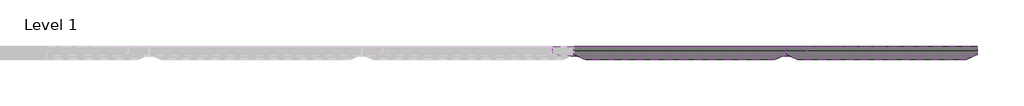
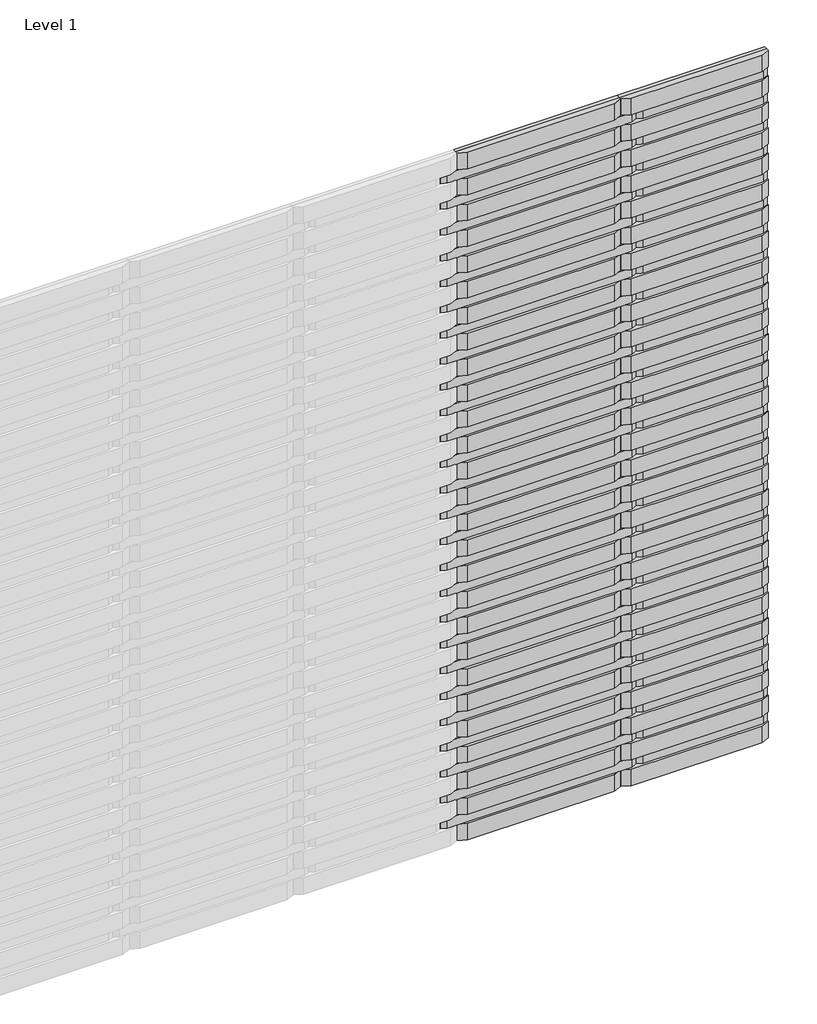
# One storey, part 3 of 3: 106 proxies.
"""IFC4 building model written with IfcOpenShell, lengths in millimetres."""

from ifc_helpers import new_model, si_unit, origin, place, context, project, spatial, transform, mapped, element, save
from components import specialty_equipment_40f1bc00, specialty_equipment_a95d78fa, specialty_equipment_5a5a9d1b, specialty_equipment_b25e9ab8

model = new_model("IFC4")

# Units and contexts
model_context = context("Model", 3, world=origin())
ifc_project = project(units=[si_unit("LENGTHUNIT", "METRE", prefix="MILLI")], contexts=[model_context])

# Site, building, storey
site = spatial("IfcSite", under=ifc_project)
building = spatial("IfcBuilding", under=site)
storey = spatial("IfcBuildingStorey", under=building, Name="Level 1", Elevation=0.0)

# Proxies
placement = place(None, origin())
specialty_equipment_shape = specialty_equipment_40f1bc00(model_context)
element("IfcBuildingElementProxy", 1, Name="Spinneybeck_ARO Plank 8 : A - 2’-9” x 3 1/2” x 1 1/4”", ObjectType="Spinneybeck_ARO Plank 8 : A - 2’-9” x 3 1/2” x 1 1/4”", at=placement, inside=storey, context=model_context, shape_type="MappedRepresentation", body=[
    mapped(specialty_equipment_shape, transform((3652.779612, 2593.3070483, 3755.55), x_axis=(1.0, 0.0, 0.0), y_axis=(0.0, 0.0, 1.0), z_axis=(0.0, -1.0, 0.0))),
])
element("IfcBuildingElementProxy", 2, Name="Spinneybeck_ARO Plank 8 : A - 2’-9” x 3 1/2” x 1 1/4”", ObjectType="Spinneybeck_ARO Plank 8 : A - 2’-9” x 3 1/2” x 1 1/4”", at=placement, inside=storey, context=model_context, shape_type="MappedRepresentation", body=[
    mapped(specialty_equipment_shape, transform((3652.779612, 2593.3070483, 3615.85), x_axis=(1.0, 0.0, 0.0), y_axis=(0.0, 0.0, 1.0), z_axis=(0.0, -1.0, 0.0))),
])
element("IfcBuildingElementProxy", 3, Name="Spinneybeck_ARO Plank 8 : A - 2’-9” x 3 1/2” x 1 1/4”", ObjectType="Spinneybeck_ARO Plank 8 : A - 2’-9” x 3 1/2” x 1 1/4”", at=placement, inside=storey, context=model_context, shape_type="MappedRepresentation", body=[
    mapped(specialty_equipment_shape, transform((3652.779612, 2593.3070483, 3476.15), x_axis=(1.0, 0.0, 0.0), y_axis=(0.0, 0.0, 1.0), z_axis=(0.0, -1.0, 0.0))),
])
element("IfcBuildingElementProxy", 4, Name="Spinneybeck_ARO Plank 8 : A - 2’-9” x 3 1/2” x 1 1/4”", ObjectType="Spinneybeck_ARO Plank 8 : A - 2’-9” x 3 1/2” x 1 1/4”", at=placement, inside=storey, context=model_context, shape_type="MappedRepresentation", body=[
    mapped(specialty_equipment_shape, transform((3652.779612, 2593.3070483, 3336.45), x_axis=(1.0, 0.0, 0.0), y_axis=(0.0, 0.0, 1.0), z_axis=(0.0, -1.0, 0.0))),
])
element("IfcBuildingElementProxy", 5, Name="Spinneybeck_ARO Plank 8 : A - 2’-9” x 3 1/2” x 1 1/4”", ObjectType="Spinneybeck_ARO Plank 8 : A - 2’-9” x 3 1/2” x 1 1/4”", at=placement, inside=storey, context=model_context, shape_type="MappedRepresentation", body=[
    mapped(specialty_equipment_shape, transform((3652.779612, 2593.3070483, 3196.75), x_axis=(1.0, 0.0, 0.0), y_axis=(0.0, 0.0, 1.0), z_axis=(0.0, -1.0, 0.0))),
])
element("IfcBuildingElementProxy", 6, Name="Spinneybeck_ARO Plank 8 : A - 2’-9” x 3 1/2” x 1 1/4”", ObjectType="Spinneybeck_ARO Plank 8 : A - 2’-9” x 3 1/2” x 1 1/4”", at=placement, inside=storey, context=model_context, shape_type="MappedRepresentation", body=[
    mapped(specialty_equipment_shape, transform((3652.779612, 2593.3070483, 3057.05), x_axis=(1.0, 0.0, 0.0), y_axis=(0.0, 0.0, 1.0), z_axis=(0.0, -1.0, 0.0))),
])
element("IfcBuildingElementProxy", 7, Name="Spinneybeck_ARO Plank 8 : A - 2’-9” x 3 1/2” x 1 1/4”", ObjectType="Spinneybeck_ARO Plank 8 : A - 2’-9” x 3 1/2” x 1 1/4”", at=placement, inside=storey, context=model_context, shape_type="MappedRepresentation", body=[
    mapped(specialty_equipment_shape, transform((3652.779612, 2593.3070483, 2917.35), x_axis=(1.0, 0.0, 0.0), y_axis=(0.0, 0.0, 1.0), z_axis=(0.0, -1.0, 0.0))),
])
element("IfcBuildingElementProxy", 8, Name="Spinneybeck_ARO Plank 8 : A - 2’-9” x 3 1/2” x 1 1/4”", ObjectType="Spinneybeck_ARO Plank 8 : A - 2’-9” x 3 1/2” x 1 1/4”", at=placement, inside=storey, context=model_context, shape_type="MappedRepresentation", body=[
    mapped(specialty_equipment_shape, transform((3652.779612, 2593.3070483, 2777.65), x_axis=(1.0, 0.0, 0.0), y_axis=(0.0, 0.0, 1.0), z_axis=(0.0, -1.0, 0.0))),
])
element("IfcBuildingElementProxy", 9, Name="Spinneybeck_ARO Plank 8 : A - 2’-9” x 3 1/2” x 1 1/4”", ObjectType="Spinneybeck_ARO Plank 8 : A - 2’-9” x 3 1/2” x 1 1/4”", at=placement, inside=storey, context=model_context, shape_type="MappedRepresentation", body=[
    mapped(specialty_equipment_shape, transform((3652.779612, 2593.3070483, 2637.95), x_axis=(1.0, 0.0, 0.0), y_axis=(0.0, 0.0, 1.0), z_axis=(0.0, -1.0, 0.0))),
])
element("IfcBuildingElementProxy", 10, Name="Spinneybeck_ARO Plank 8 : A - 2’-9” x 3 1/2” x 1 1/4”", ObjectType="Spinneybeck_ARO Plank 8 : A - 2’-9” x 3 1/2” x 1 1/4”", at=placement, inside=storey, context=model_context, shape_type="MappedRepresentation", body=[
    mapped(specialty_equipment_shape, transform((3652.779612, 2593.3070483, 2498.25), x_axis=(1.0, 0.0, 0.0), y_axis=(0.0, 0.0, 1.0), z_axis=(0.0, -1.0, 0.0))),
])
element("IfcBuildingElementProxy", 11, Name="Spinneybeck_ARO Plank 8 : A - 2’-9” x 3 1/2” x 1 1/4”", ObjectType="Spinneybeck_ARO Plank 8 : A - 2’-9” x 3 1/2” x 1 1/4”", at=placement, inside=storey, context=model_context, shape_type="MappedRepresentation", body=[
    mapped(specialty_equipment_shape, transform((3652.779612, 2593.3070483, 2358.55), x_axis=(1.0, 0.0, 0.0), y_axis=(0.0, 0.0, 1.0), z_axis=(0.0, -1.0, 0.0))),
])
element("IfcBuildingElementProxy", 12, Name="Spinneybeck_ARO Plank 8 : A - 2’-9” x 3 1/2” x 1 1/4”", ObjectType="Spinneybeck_ARO Plank 8 : A - 2’-9” x 3 1/2” x 1 1/4”", at=placement, inside=storey, context=model_context, shape_type="MappedRepresentation", body=[
    mapped(specialty_equipment_shape, transform((3652.779612, 2593.3070483, 2218.85), x_axis=(1.0, 0.0, 0.0), y_axis=(0.0, 0.0, 1.0), z_axis=(0.0, -1.0, 0.0))),
])
element("IfcBuildingElementProxy", 13, Name="Spinneybeck_ARO Plank 8 : A - 2’-9” x 3 1/2” x 1 1/4”", ObjectType="Spinneybeck_ARO Plank 8 : A - 2’-9” x 3 1/2” x 1 1/4”", at=placement, inside=storey, context=model_context, shape_type="MappedRepresentation", body=[
    mapped(specialty_equipment_shape, transform((3652.779612, 2593.3070483, 2079.15), x_axis=(1.0, 0.0, 0.0), y_axis=(0.0, 0.0, 1.0), z_axis=(0.0, -1.0, 0.0))),
])
element("IfcBuildingElementProxy", 14, Name="Spinneybeck_ARO Plank 8 : A - 2’-9” x 3 1/2” x 1 1/4”", ObjectType="Spinneybeck_ARO Plank 8 : A - 2’-9” x 3 1/2” x 1 1/4”", at=placement, inside=storey, context=model_context, shape_type="MappedRepresentation", body=[
    mapped(specialty_equipment_shape, transform((3652.779612, 2593.3070483, 1939.45), x_axis=(1.0, 0.0, 0.0), y_axis=(0.0, 0.0, 1.0), z_axis=(0.0, -1.0, 0.0))),
])
element("IfcBuildingElementProxy", 15, Name="Spinneybeck_ARO Plank 8 : A - 2’-9” x 3 1/2” x 1 1/4”", ObjectType="Spinneybeck_ARO Plank 8 : A - 2’-9” x 3 1/2” x 1 1/4”", at=placement, inside=storey, context=model_context, shape_type="MappedRepresentation", body=[
    mapped(specialty_equipment_shape, transform((3652.779612, 2593.3070483, 1799.75), x_axis=(1.0, 0.0, 0.0), y_axis=(0.0, 0.0, 1.0), z_axis=(0.0, -1.0, 0.0))),
])
element("IfcBuildingElementProxy", 16, Name="Spinneybeck_ARO Plank 8 : A - 2’-9” x 3 1/2” x 1 1/4”", ObjectType="Spinneybeck_ARO Plank 8 : A - 2’-9” x 3 1/2” x 1 1/4”", at=placement, inside=storey, context=model_context, shape_type="MappedRepresentation", body=[
    mapped(specialty_equipment_shape, transform((3652.779612, 2593.3070483, 1660.05), x_axis=(1.0, 0.0, 0.0), y_axis=(0.0, 0.0, 1.0), z_axis=(0.0, -1.0, 0.0))),
])
element("IfcBuildingElementProxy", 17, Name="Spinneybeck_ARO Plank 8 : A - 2’-9” x 3 1/2” x 1 1/4”", ObjectType="Spinneybeck_ARO Plank 8 : A - 2’-9” x 3 1/2” x 1 1/4”", at=placement, inside=storey, context=model_context, shape_type="MappedRepresentation", body=[
    mapped(specialty_equipment_shape, transform((3652.779612, 2593.3070483, 1520.35), x_axis=(1.0, 0.0, 0.0), y_axis=(0.0, 0.0, 1.0), z_axis=(0.0, -1.0, 0.0))),
])
element("IfcBuildingElementProxy", 18, Name="Spinneybeck_ARO Plank 8 : A - 2’-9” x 3 1/2” x 1 1/4”", ObjectType="Spinneybeck_ARO Plank 8 : A - 2’-9” x 3 1/2” x 1 1/4”", at=placement, inside=storey, context=model_context, shape_type="MappedRepresentation", body=[
    mapped(specialty_equipment_shape, transform((3652.779612, 2593.3070483, 1380.65), x_axis=(1.0, 0.0, 0.0), y_axis=(0.0, 0.0, 1.0), z_axis=(0.0, -1.0, 0.0))),
])
element("IfcBuildingElementProxy", 19, Name="Spinneybeck_ARO Plank 8 : A - 2’-9” x 3 1/2” x 1 1/4”", ObjectType="Spinneybeck_ARO Plank 8 : A - 2’-9” x 3 1/2” x 1 1/4”", at=placement, inside=storey, context=model_context, shape_type="MappedRepresentation", body=[
    mapped(specialty_equipment_shape, transform((3652.779612, 2593.3070483, 1240.95), x_axis=(1.0, 0.0, 0.0), y_axis=(0.0, 0.0, 1.0), z_axis=(0.0, -1.0, 0.0))),
])
element("IfcBuildingElementProxy", 20, Name="Spinneybeck_ARO Plank 8 : A - 2’-9” x 3 1/2” x 1 1/4”", ObjectType="Spinneybeck_ARO Plank 8 : A - 2’-9” x 3 1/2” x 1 1/4”", at=placement, inside=storey, context=model_context, shape_type="MappedRepresentation", body=[
    mapped(specialty_equipment_shape, transform((3652.779612, 2593.3070483, 1101.25), x_axis=(1.0, 0.0, 0.0), y_axis=(0.0, 0.0, 1.0), z_axis=(0.0, -1.0, 0.0))),
])
element("IfcBuildingElementProxy", 21, Name="Spinneybeck_ARO Plank 8 : A - 2’-9” x 3 1/2” x 1 1/4”", ObjectType="Spinneybeck_ARO Plank 8 : A - 2’-9” x 3 1/2” x 1 1/4”", at=placement, inside=storey, context=model_context, shape_type="MappedRepresentation", body=[
    mapped(specialty_equipment_shape, transform((3652.779612, 2593.3070483, 961.55), x_axis=(1.0, 0.0, 0.0), y_axis=(0.0, 0.0, 1.0), z_axis=(0.0, -1.0, 0.0))),
])
element("IfcBuildingElementProxy", 22, Name="Spinneybeck_ARO Plank 8 : A - 2’-9” x 3 1/2” x 1 1/4”", ObjectType="Spinneybeck_ARO Plank 8 : A - 2’-9” x 3 1/2” x 1 1/4”", at=placement, inside=storey, context=model_context, shape_type="MappedRepresentation", body=[
    mapped(specialty_equipment_shape, transform((3652.779612, 2593.3070483, 821.85), x_axis=(1.0, 0.0, 0.0), y_axis=(0.0, 0.0, 1.0), z_axis=(0.0, -1.0, 0.0))),
])
element("IfcBuildingElementProxy", 23, Name="Spinneybeck_ARO Plank 8 : A - 2’-9” x 3 1/2” x 1 1/4”", ObjectType="Spinneybeck_ARO Plank 8 : A - 2’-9” x 3 1/2” x 1 1/4”", at=placement, inside=storey, context=model_context, shape_type="MappedRepresentation", body=[
    mapped(specialty_equipment_shape, transform((3652.779612, 2593.3070483, 682.15), x_axis=(1.0, 0.0, 0.0), y_axis=(0.0, 0.0, 1.0), z_axis=(0.0, -1.0, 0.0))),
])
element("IfcBuildingElementProxy", 24, Name="Spinneybeck_ARO Plank 8 : A - 2’-9” x 3 1/2” x 1 1/4”", ObjectType="Spinneybeck_ARO Plank 8 : A - 2’-9” x 3 1/2” x 1 1/4”", at=placement, inside=storey, context=model_context, shape_type="MappedRepresentation", body=[
    mapped(specialty_equipment_shape, transform((3652.779612, 2593.3070483, 542.45), x_axis=(1.0, 0.0, 0.0), y_axis=(0.0, 0.0, 1.0), z_axis=(0.0, -1.0, 0.0))),
])
element("IfcBuildingElementProxy", 25, Name="Spinneybeck_ARO Plank 8 : A - 2’-9” x 3 1/2” x 1 1/4”", ObjectType="Spinneybeck_ARO Plank 8 : A - 2’-9” x 3 1/2” x 1 1/4”", at=placement, inside=storey, context=model_context, shape_type="MappedRepresentation", body=[
    mapped(specialty_equipment_shape, transform((3652.779612, 2593.3070483, 402.75), x_axis=(1.0, 0.0, 0.0), y_axis=(0.0, 0.0, 1.0), z_axis=(0.0, -1.0, 0.0))),
])
element("IfcBuildingElementProxy", 26, Name="Spinneybeck_ARO Plank 8 : A - 2’-9” x 3 1/2” x 1 1/4”", ObjectType="Spinneybeck_ARO Plank 8 : A - 2’-9” x 3 1/2” x 1 1/4”", at=placement, inside=storey, context=model_context, shape_type="MappedRepresentation", body=[
    mapped(specialty_equipment_shape, transform((3652.779612, 2593.3070483, 263.05), x_axis=(1.0, 0.0, 0.0), y_axis=(0.0, 0.0, 1.0), z_axis=(0.0, -1.0, 0.0))),
])
element("IfcBuildingElementProxy", 27, Name="Spinneybeck_ARO Plank 8 : A - 2’-9” x 3 1/2” x 1 1/4”", ObjectType="Spinneybeck_ARO Plank 8 : A - 2’-9” x 3 1/2” x 1 1/4”", at=placement, inside=storey, context=model_context, shape_type="MappedRepresentation", body=[
    mapped(specialty_equipment_shape, transform((3652.779612, 2593.3070483, 123.35), x_axis=(1.0, 0.0, 0.0), y_axis=(0.0, 0.0, 1.0), z_axis=(0.0, -1.0, 0.0))),
])
specialty_equipment_2_shape = specialty_equipment_a95d78fa(model_context)
element("IfcBuildingElementProxy", 28, Name="Spinneybeck_ARO Plank 8 : C - 3’-3 1/2” x 2” x 3/4”", ObjectType="Spinneybeck_ARO Plank 8 : C - 3’-3 1/2” x 2” x 3/4”", at=placement, inside=storey, context=model_context, shape_type="MappedRepresentation", body=[
    mapped(specialty_equipment_2_shape, transform((3652.779612, 2593.3070483, 3685.7), x_axis=(1.0, 0.0, 0.0), y_axis=(0.0, 0.0, 1.0), z_axis=(0.0, -1.0, 0.0))),
])
element("IfcBuildingElementProxy", 29, Name="Spinneybeck_ARO Plank 8 : C - 3’-3 1/2” x 2” x 3/4”", ObjectType="Spinneybeck_ARO Plank 8 : C - 3’-3 1/2” x 2” x 3/4”", at=placement, inside=storey, context=model_context, shape_type="MappedRepresentation", body=[
    mapped(specialty_equipment_2_shape, transform((3652.779612, 2593.3070483, 3546.0), x_axis=(1.0, 0.0, 0.0), y_axis=(0.0, 0.0, 1.0), z_axis=(0.0, -1.0, 0.0))),
])
element("IfcBuildingElementProxy", 30, Name="Spinneybeck_ARO Plank 8 : C - 3’-3 1/2” x 2” x 3/4”", ObjectType="Spinneybeck_ARO Plank 8 : C - 3’-3 1/2” x 2” x 3/4”", at=placement, inside=storey, context=model_context, shape_type="MappedRepresentation", body=[
    mapped(specialty_equipment_2_shape, transform((3652.779612, 2593.3070483, 3406.3), x_axis=(1.0, 0.0, 0.0), y_axis=(0.0, 0.0, 1.0), z_axis=(0.0, -1.0, 0.0))),
])
element("IfcBuildingElementProxy", 31, Name="Spinneybeck_ARO Plank 8 : C - 3’-3 1/2” x 2” x 3/4”", ObjectType="Spinneybeck_ARO Plank 8 : C - 3’-3 1/2” x 2” x 3/4”", at=placement, inside=storey, context=model_context, shape_type="MappedRepresentation", body=[
    mapped(specialty_equipment_2_shape, transform((3652.779612, 2593.3070483, 3266.6), x_axis=(1.0, 0.0, 0.0), y_axis=(0.0, 0.0, 1.0), z_axis=(0.0, -1.0, 0.0))),
])
element("IfcBuildingElementProxy", 32, Name="Spinneybeck_ARO Plank 8 : C - 3’-3 1/2” x 2” x 3/4”", ObjectType="Spinneybeck_ARO Plank 8 : C - 3’-3 1/2” x 2” x 3/4”", at=placement, inside=storey, context=model_context, shape_type="MappedRepresentation", body=[
    mapped(specialty_equipment_2_shape, transform((3652.779612, 2593.3070483, 3126.9), x_axis=(1.0, 0.0, 0.0), y_axis=(0.0, 0.0, 1.0), z_axis=(0.0, -1.0, 0.0))),
])
element("IfcBuildingElementProxy", 33, Name="Spinneybeck_ARO Plank 8 : C - 3’-3 1/2” x 2” x 3/4”", ObjectType="Spinneybeck_ARO Plank 8 : C - 3’-3 1/2” x 2” x 3/4”", at=placement, inside=storey, context=model_context, shape_type="MappedRepresentation", body=[
    mapped(specialty_equipment_2_shape, transform((3652.779612, 2593.3070483, 2987.2), x_axis=(1.0, 0.0, 0.0), y_axis=(0.0, 0.0, 1.0), z_axis=(0.0, -1.0, 0.0))),
])
element("IfcBuildingElementProxy", 34, Name="Spinneybeck_ARO Plank 8 : C - 3’-3 1/2” x 2” x 3/4”", ObjectType="Spinneybeck_ARO Plank 8 : C - 3’-3 1/2” x 2” x 3/4”", at=placement, inside=storey, context=model_context, shape_type="MappedRepresentation", body=[
    mapped(specialty_equipment_2_shape, transform((3652.779612, 2593.3070483, 2847.5), x_axis=(1.0, 0.0, 0.0), y_axis=(0.0, 0.0, 1.0), z_axis=(0.0, -1.0, 0.0))),
])
element("IfcBuildingElementProxy", 35, Name="Spinneybeck_ARO Plank 8 : C - 3’-3 1/2” x 2” x 3/4”", ObjectType="Spinneybeck_ARO Plank 8 : C - 3’-3 1/2” x 2” x 3/4”", at=placement, inside=storey, context=model_context, shape_type="MappedRepresentation", body=[
    mapped(specialty_equipment_2_shape, transform((3652.779612, 2593.3070483, 2707.8), x_axis=(1.0, 0.0, 0.0), y_axis=(0.0, 0.0, 1.0), z_axis=(0.0, -1.0, 0.0))),
])
element("IfcBuildingElementProxy", 36, Name="Spinneybeck_ARO Plank 8 : C - 3’-3 1/2” x 2” x 3/4”", ObjectType="Spinneybeck_ARO Plank 8 : C - 3’-3 1/2” x 2” x 3/4”", at=placement, inside=storey, context=model_context, shape_type="MappedRepresentation", body=[
    mapped(specialty_equipment_2_shape, transform((3652.779612, 2593.3070483, 2568.1), x_axis=(1.0, 0.0, 0.0), y_axis=(0.0, 0.0, 1.0), z_axis=(0.0, -1.0, 0.0))),
])
element("IfcBuildingElementProxy", 37, Name="Spinneybeck_ARO Plank 8 : C - 3’-3 1/2” x 2” x 3/4”", ObjectType="Spinneybeck_ARO Plank 8 : C - 3’-3 1/2” x 2” x 3/4”", at=placement, inside=storey, context=model_context, shape_type="MappedRepresentation", body=[
    mapped(specialty_equipment_2_shape, transform((3652.779612, 2593.3070483, 2428.4), x_axis=(1.0, 0.0, 0.0), y_axis=(0.0, 0.0, 1.0), z_axis=(0.0, -1.0, 0.0))),
])
element("IfcBuildingElementProxy", 38, Name="Spinneybeck_ARO Plank 8 : C - 3’-3 1/2” x 2” x 3/4”", ObjectType="Spinneybeck_ARO Plank 8 : C - 3’-3 1/2” x 2” x 3/4”", at=placement, inside=storey, context=model_context, shape_type="MappedRepresentation", body=[
    mapped(specialty_equipment_2_shape, transform((3652.779612, 2593.3070483, 2288.7), x_axis=(1.0, 0.0, 0.0), y_axis=(0.0, 0.0, 1.0), z_axis=(0.0, -1.0, 0.0))),
])
element("IfcBuildingElementProxy", 39, Name="Spinneybeck_ARO Plank 8 : C - 3’-3 1/2” x 2” x 3/4”", ObjectType="Spinneybeck_ARO Plank 8 : C - 3’-3 1/2” x 2” x 3/4”", at=placement, inside=storey, context=model_context, shape_type="MappedRepresentation", body=[
    mapped(specialty_equipment_2_shape, transform((3652.779612, 2593.3070483, 2149.0), x_axis=(1.0, 0.0, 0.0), y_axis=(0.0, 0.0, 1.0), z_axis=(0.0, -1.0, 0.0))),
])
element("IfcBuildingElementProxy", 40, Name="Spinneybeck_ARO Plank 8 : C - 3’-3 1/2” x 2” x 3/4”", ObjectType="Spinneybeck_ARO Plank 8 : C - 3’-3 1/2” x 2” x 3/4”", at=placement, inside=storey, context=model_context, shape_type="MappedRepresentation", body=[
    mapped(specialty_equipment_2_shape, transform((3652.779612, 2593.3070483, 2009.3), x_axis=(1.0, 0.0, 0.0), y_axis=(0.0, 0.0, 1.0), z_axis=(0.0, -1.0, 0.0))),
])
element("IfcBuildingElementProxy", 41, Name="Spinneybeck_ARO Plank 8 : C - 3’-3 1/2” x 2” x 3/4”", ObjectType="Spinneybeck_ARO Plank 8 : C - 3’-3 1/2” x 2” x 3/4”", at=placement, inside=storey, context=model_context, shape_type="MappedRepresentation", body=[
    mapped(specialty_equipment_2_shape, transform((3652.779612, 2593.3070483, 1869.6), x_axis=(1.0, 0.0, 0.0), y_axis=(0.0, 0.0, 1.0), z_axis=(0.0, -1.0, 0.0))),
])
element("IfcBuildingElementProxy", 42, Name="Spinneybeck_ARO Plank 8 : C - 3’-3 1/2” x 2” x 3/4”", ObjectType="Spinneybeck_ARO Plank 8 : C - 3’-3 1/2” x 2” x 3/4”", at=placement, inside=storey, context=model_context, shape_type="MappedRepresentation", body=[
    mapped(specialty_equipment_2_shape, transform((3652.779612, 2593.3070483, 1729.9), x_axis=(1.0, 0.0, 0.0), y_axis=(0.0, 0.0, 1.0), z_axis=(0.0, -1.0, 0.0))),
])
element("IfcBuildingElementProxy", 43, Name="Spinneybeck_ARO Plank 8 : C - 3’-3 1/2” x 2” x 3/4”", ObjectType="Spinneybeck_ARO Plank 8 : C - 3’-3 1/2” x 2” x 3/4”", at=placement, inside=storey, context=model_context, shape_type="MappedRepresentation", body=[
    mapped(specialty_equipment_2_shape, transform((3652.779612, 2593.3070483, 1590.2), x_axis=(1.0, 0.0, 0.0), y_axis=(0.0, 0.0, 1.0), z_axis=(0.0, -1.0, 0.0))),
])
element("IfcBuildingElementProxy", 44, Name="Spinneybeck_ARO Plank 8 : C - 3’-3 1/2” x 2” x 3/4”", ObjectType="Spinneybeck_ARO Plank 8 : C - 3’-3 1/2” x 2” x 3/4”", at=placement, inside=storey, context=model_context, shape_type="MappedRepresentation", body=[
    mapped(specialty_equipment_2_shape, transform((3652.779612, 2593.3070483, 1450.5), x_axis=(1.0, 0.0, 0.0), y_axis=(0.0, 0.0, 1.0), z_axis=(0.0, -1.0, 0.0))),
])
element("IfcBuildingElementProxy", 45, Name="Spinneybeck_ARO Plank 8 : C - 3’-3 1/2” x 2” x 3/4”", ObjectType="Spinneybeck_ARO Plank 8 : C - 3’-3 1/2” x 2” x 3/4”", at=placement, inside=storey, context=model_context, shape_type="MappedRepresentation", body=[
    mapped(specialty_equipment_2_shape, transform((3652.779612, 2593.3070483, 1310.8), x_axis=(1.0, 0.0, 0.0), y_axis=(0.0, 0.0, 1.0), z_axis=(0.0, -1.0, 0.0))),
])
element("IfcBuildingElementProxy", 46, Name="Spinneybeck_ARO Plank 8 : C - 3’-3 1/2” x 2” x 3/4”", ObjectType="Spinneybeck_ARO Plank 8 : C - 3’-3 1/2” x 2” x 3/4”", at=placement, inside=storey, context=model_context, shape_type="MappedRepresentation", body=[
    mapped(specialty_equipment_2_shape, transform((3652.779612, 2593.3070483, 1171.1), x_axis=(1.0, 0.0, 0.0), y_axis=(0.0, 0.0, 1.0), z_axis=(0.0, -1.0, 0.0))),
])
element("IfcBuildingElementProxy", 47, Name="Spinneybeck_ARO Plank 8 : C - 3’-3 1/2” x 2” x 3/4”", ObjectType="Spinneybeck_ARO Plank 8 : C - 3’-3 1/2” x 2” x 3/4”", at=placement, inside=storey, context=model_context, shape_type="MappedRepresentation", body=[
    mapped(specialty_equipment_2_shape, transform((3652.779612, 2593.3070483, 1031.4), x_axis=(1.0, 0.0, 0.0), y_axis=(0.0, 0.0, 1.0), z_axis=(0.0, -1.0, 0.0))),
])
element("IfcBuildingElementProxy", 48, Name="Spinneybeck_ARO Plank 8 : C - 3’-3 1/2” x 2” x 3/4”", ObjectType="Spinneybeck_ARO Plank 8 : C - 3’-3 1/2” x 2” x 3/4”", at=placement, inside=storey, context=model_context, shape_type="MappedRepresentation", body=[
    mapped(specialty_equipment_2_shape, transform((3652.779612, 2593.3070483, 891.7), x_axis=(1.0, 0.0, 0.0), y_axis=(0.0, 0.0, 1.0), z_axis=(0.0, -1.0, 0.0))),
])
element("IfcBuildingElementProxy", 49, Name="Spinneybeck_ARO Plank 8 : C - 3’-3 1/2” x 2” x 3/4”", ObjectType="Spinneybeck_ARO Plank 8 : C - 3’-3 1/2” x 2” x 3/4”", at=placement, inside=storey, context=model_context, shape_type="MappedRepresentation", body=[
    mapped(specialty_equipment_2_shape, transform((3652.779612, 2593.3070483, 752.0), x_axis=(1.0, 0.0, 0.0), y_axis=(0.0, 0.0, 1.0), z_axis=(0.0, -1.0, 0.0))),
])
element("IfcBuildingElementProxy", 50, Name="Spinneybeck_ARO Plank 8 : C - 3’-3 1/2” x 2” x 3/4”", ObjectType="Spinneybeck_ARO Plank 8 : C - 3’-3 1/2” x 2” x 3/4”", at=placement, inside=storey, context=model_context, shape_type="MappedRepresentation", body=[
    mapped(specialty_equipment_2_shape, transform((3652.779612, 2593.3070483, 612.3), x_axis=(1.0, 0.0, 0.0), y_axis=(0.0, 0.0, 1.0), z_axis=(0.0, -1.0, 0.0))),
])
element("IfcBuildingElementProxy", 51, Name="Spinneybeck_ARO Plank 8 : C - 3’-3 1/2” x 2” x 3/4”", ObjectType="Spinneybeck_ARO Plank 8 : C - 3’-3 1/2” x 2” x 3/4”", at=placement, inside=storey, context=model_context, shape_type="MappedRepresentation", body=[
    mapped(specialty_equipment_2_shape, transform((3652.779612, 2593.3070483, 472.6), x_axis=(1.0, 0.0, 0.0), y_axis=(0.0, 0.0, 1.0), z_axis=(0.0, -1.0, 0.0))),
])
element("IfcBuildingElementProxy", 52, Name="Spinneybeck_ARO Plank 8 : C - 3’-3 1/2” x 2” x 3/4”", ObjectType="Spinneybeck_ARO Plank 8 : C - 3’-3 1/2” x 2” x 3/4”", at=placement, inside=storey, context=model_context, shape_type="MappedRepresentation", body=[
    mapped(specialty_equipment_2_shape, transform((3652.779612, 2593.3070483, 332.9), x_axis=(1.0, 0.0, 0.0), y_axis=(0.0, 0.0, 1.0), z_axis=(0.0, -1.0, 0.0))),
])
element("IfcBuildingElementProxy", 53, Name="Spinneybeck_ARO Plank 8 : C - 3’-3 1/2” x 2” x 3/4”", ObjectType="Spinneybeck_ARO Plank 8 : C - 3’-3 1/2” x 2” x 3/4”", at=placement, inside=storey, context=model_context, shape_type="MappedRepresentation", body=[
    mapped(specialty_equipment_2_shape, transform((3652.779612, 2593.3070483, 193.2), x_axis=(1.0, 0.0, 0.0), y_axis=(0.0, 0.0, 1.0), z_axis=(0.0, -1.0, 0.0))),
])
specialty_equipment_3_shape = specialty_equipment_5a5a9d1b(model_context)
element("IfcBuildingElementProxy", 54, Name="Spinneybeck_ARO Plank 8 : D - 2’-2 1/2” x 2” x 3/4”", ObjectType="Spinneybeck_ARO Plank 8 : D - 2’-2 1/2” x 2” x 3/4”", at=placement, inside=storey, context=model_context, shape_type="MappedRepresentation", body=[
    mapped(specialty_equipment_3_shape, transform((4490.979612, 2593.3070483, 3685.7), x_axis=(1.0, 0.0, 0.0), y_axis=(0.0, 0.0, 1.0), z_axis=(0.0, -1.0, 0.0))),
])
element("IfcBuildingElementProxy", 55, Name="Spinneybeck_ARO Plank 8 : D - 2’-2 1/2” x 2” x 3/4”", ObjectType="Spinneybeck_ARO Plank 8 : D - 2’-2 1/2” x 2” x 3/4”", at=placement, inside=storey, context=model_context, shape_type="MappedRepresentation", body=[
    mapped(specialty_equipment_3_shape, transform((4490.979612, 2593.3070483, 3546.0), x_axis=(1.0, 0.0, 0.0), y_axis=(0.0, 0.0, 1.0), z_axis=(0.0, -1.0, 0.0))),
])
element("IfcBuildingElementProxy", 56, Name="Spinneybeck_ARO Plank 8 : D - 2’-2 1/2” x 2” x 3/4”", ObjectType="Spinneybeck_ARO Plank 8 : D - 2’-2 1/2” x 2” x 3/4”", at=placement, inside=storey, context=model_context, shape_type="MappedRepresentation", body=[
    mapped(specialty_equipment_3_shape, transform((4490.979612, 2593.3070483, 3406.3), x_axis=(1.0, 0.0, 0.0), y_axis=(0.0, 0.0, 1.0), z_axis=(0.0, -1.0, 0.0))),
])
element("IfcBuildingElementProxy", 57, Name="Spinneybeck_ARO Plank 8 : D - 2’-2 1/2” x 2” x 3/4”", ObjectType="Spinneybeck_ARO Plank 8 : D - 2’-2 1/2” x 2” x 3/4”", at=placement, inside=storey, context=model_context, shape_type="MappedRepresentation", body=[
    mapped(specialty_equipment_3_shape, transform((4490.979612, 2593.3070483, 3266.6), x_axis=(1.0, 0.0, 0.0), y_axis=(0.0, 0.0, 1.0), z_axis=(0.0, -1.0, 0.0))),
])
element("IfcBuildingElementProxy", 58, Name="Spinneybeck_ARO Plank 8 : D - 2’-2 1/2” x 2” x 3/4”", ObjectType="Spinneybeck_ARO Plank 8 : D - 2’-2 1/2” x 2” x 3/4”", at=placement, inside=storey, context=model_context, shape_type="MappedRepresentation", body=[
    mapped(specialty_equipment_3_shape, transform((4490.979612, 2593.3070483, 3126.9), x_axis=(1.0, 0.0, 0.0), y_axis=(0.0, 0.0, 1.0), z_axis=(0.0, -1.0, 0.0))),
])
element("IfcBuildingElementProxy", 59, Name="Spinneybeck_ARO Plank 8 : D - 2’-2 1/2” x 2” x 3/4”", ObjectType="Spinneybeck_ARO Plank 8 : D - 2’-2 1/2” x 2” x 3/4”", at=placement, inside=storey, context=model_context, shape_type="MappedRepresentation", body=[
    mapped(specialty_equipment_3_shape, transform((4490.979612, 2593.3070483, 2987.2), x_axis=(1.0, 0.0, 0.0), y_axis=(0.0, 0.0, 1.0), z_axis=(0.0, -1.0, 0.0))),
])
element("IfcBuildingElementProxy", 60, Name="Spinneybeck_ARO Plank 8 : D - 2’-2 1/2” x 2” x 3/4”", ObjectType="Spinneybeck_ARO Plank 8 : D - 2’-2 1/2” x 2” x 3/4”", at=placement, inside=storey, context=model_context, shape_type="MappedRepresentation", body=[
    mapped(specialty_equipment_3_shape, transform((4490.979612, 2593.3070483, 2847.5), x_axis=(1.0, 0.0, 0.0), y_axis=(0.0, 0.0, 1.0), z_axis=(0.0, -1.0, 0.0))),
])
element("IfcBuildingElementProxy", 61, Name="Spinneybeck_ARO Plank 8 : D - 2’-2 1/2” x 2” x 3/4”", ObjectType="Spinneybeck_ARO Plank 8 : D - 2’-2 1/2” x 2” x 3/4”", at=placement, inside=storey, context=model_context, shape_type="MappedRepresentation", body=[
    mapped(specialty_equipment_3_shape, transform((4490.979612, 2593.3070483, 2707.8), x_axis=(1.0, 0.0, 0.0), y_axis=(0.0, 0.0, 1.0), z_axis=(0.0, -1.0, 0.0))),
])
element("IfcBuildingElementProxy", 62, Name="Spinneybeck_ARO Plank 8 : D - 2’-2 1/2” x 2” x 3/4”", ObjectType="Spinneybeck_ARO Plank 8 : D - 2’-2 1/2” x 2” x 3/4”", at=placement, inside=storey, context=model_context, shape_type="MappedRepresentation", body=[
    mapped(specialty_equipment_3_shape, transform((4490.979612, 2593.3070483, 2568.1), x_axis=(1.0, 0.0, 0.0), y_axis=(0.0, 0.0, 1.0), z_axis=(0.0, -1.0, 0.0))),
])
element("IfcBuildingElementProxy", 63, Name="Spinneybeck_ARO Plank 8 : D - 2’-2 1/2” x 2” x 3/4”", ObjectType="Spinneybeck_ARO Plank 8 : D - 2’-2 1/2” x 2” x 3/4”", at=placement, inside=storey, context=model_context, shape_type="MappedRepresentation", body=[
    mapped(specialty_equipment_3_shape, transform((4490.979612, 2593.3070483, 2428.4), x_axis=(1.0, 0.0, 0.0), y_axis=(0.0, 0.0, 1.0), z_axis=(0.0, -1.0, 0.0))),
])
element("IfcBuildingElementProxy", 64, Name="Spinneybeck_ARO Plank 8 : D - 2’-2 1/2” x 2” x 3/4”", ObjectType="Spinneybeck_ARO Plank 8 : D - 2’-2 1/2” x 2” x 3/4”", at=placement, inside=storey, context=model_context, shape_type="MappedRepresentation", body=[
    mapped(specialty_equipment_3_shape, transform((4490.979612, 2593.3070483, 2288.7), x_axis=(1.0, 0.0, 0.0), y_axis=(0.0, 0.0, 1.0), z_axis=(0.0, -1.0, 0.0))),
])
element("IfcBuildingElementProxy", 65, Name="Spinneybeck_ARO Plank 8 : D - 2’-2 1/2” x 2” x 3/4”", ObjectType="Spinneybeck_ARO Plank 8 : D - 2’-2 1/2” x 2” x 3/4”", at=placement, inside=storey, context=model_context, shape_type="MappedRepresentation", body=[
    mapped(specialty_equipment_3_shape, transform((4490.979612, 2593.3070483, 2149.0), x_axis=(1.0, 0.0, 0.0), y_axis=(0.0, 0.0, 1.0), z_axis=(0.0, -1.0, 0.0))),
])
element("IfcBuildingElementProxy", 66, Name="Spinneybeck_ARO Plank 8 : D - 2’-2 1/2” x 2” x 3/4”", ObjectType="Spinneybeck_ARO Plank 8 : D - 2’-2 1/2” x 2” x 3/4”", at=placement, inside=storey, context=model_context, shape_type="MappedRepresentation", body=[
    mapped(specialty_equipment_3_shape, transform((4490.979612, 2593.3070483, 2009.3), x_axis=(1.0, 0.0, 0.0), y_axis=(0.0, 0.0, 1.0), z_axis=(0.0, -1.0, 0.0))),
])
element("IfcBuildingElementProxy", 67, Name="Spinneybeck_ARO Plank 8 : D - 2’-2 1/2” x 2” x 3/4”", ObjectType="Spinneybeck_ARO Plank 8 : D - 2’-2 1/2” x 2” x 3/4”", at=placement, inside=storey, context=model_context, shape_type="MappedRepresentation", body=[
    mapped(specialty_equipment_3_shape, transform((4490.979612, 2593.3070483, 1869.6), x_axis=(1.0, 0.0, 0.0), y_axis=(0.0, 0.0, 1.0), z_axis=(0.0, -1.0, 0.0))),
])
element("IfcBuildingElementProxy", 68, Name="Spinneybeck_ARO Plank 8 : D - 2’-2 1/2” x 2” x 3/4”", ObjectType="Spinneybeck_ARO Plank 8 : D - 2’-2 1/2” x 2” x 3/4”", at=placement, inside=storey, context=model_context, shape_type="MappedRepresentation", body=[
    mapped(specialty_equipment_3_shape, transform((4490.979612, 2593.3070483, 1729.9), x_axis=(1.0, 0.0, 0.0), y_axis=(0.0, 0.0, 1.0), z_axis=(0.0, -1.0, 0.0))),
])
element("IfcBuildingElementProxy", 69, Name="Spinneybeck_ARO Plank 8 : D - 2’-2 1/2” x 2” x 3/4”", ObjectType="Spinneybeck_ARO Plank 8 : D - 2’-2 1/2” x 2” x 3/4”", at=placement, inside=storey, context=model_context, shape_type="MappedRepresentation", body=[
    mapped(specialty_equipment_3_shape, transform((4490.979612, 2593.3070483, 1590.2), x_axis=(1.0, 0.0, 0.0), y_axis=(0.0, 0.0, 1.0), z_axis=(0.0, -1.0, 0.0))),
])
element("IfcBuildingElementProxy", 70, Name="Spinneybeck_ARO Plank 8 : D - 2’-2 1/2” x 2” x 3/4”", ObjectType="Spinneybeck_ARO Plank 8 : D - 2’-2 1/2” x 2” x 3/4”", at=placement, inside=storey, context=model_context, shape_type="MappedRepresentation", body=[
    mapped(specialty_equipment_3_shape, transform((4490.979612, 2593.3070483, 1450.5), x_axis=(1.0, 0.0, 0.0), y_axis=(0.0, 0.0, 1.0), z_axis=(0.0, -1.0, 0.0))),
])
element("IfcBuildingElementProxy", 71, Name="Spinneybeck_ARO Plank 8 : D - 2’-2 1/2” x 2” x 3/4”", ObjectType="Spinneybeck_ARO Plank 8 : D - 2’-2 1/2” x 2” x 3/4”", at=placement, inside=storey, context=model_context, shape_type="MappedRepresentation", body=[
    mapped(specialty_equipment_3_shape, transform((4490.979612, 2593.3070483, 1310.8), x_axis=(1.0, 0.0, 0.0), y_axis=(0.0, 0.0, 1.0), z_axis=(0.0, -1.0, 0.0))),
])
element("IfcBuildingElementProxy", 72, Name="Spinneybeck_ARO Plank 8 : D - 2’-2 1/2” x 2” x 3/4”", ObjectType="Spinneybeck_ARO Plank 8 : D - 2’-2 1/2” x 2” x 3/4”", at=placement, inside=storey, context=model_context, shape_type="MappedRepresentation", body=[
    mapped(specialty_equipment_3_shape, transform((4490.979612, 2593.3070483, 1171.1), x_axis=(1.0, 0.0, 0.0), y_axis=(0.0, 0.0, 1.0), z_axis=(0.0, -1.0, 0.0))),
])
element("IfcBuildingElementProxy", 73, Name="Spinneybeck_ARO Plank 8 : D - 2’-2 1/2” x 2” x 3/4”", ObjectType="Spinneybeck_ARO Plank 8 : D - 2’-2 1/2” x 2” x 3/4”", at=placement, inside=storey, context=model_context, shape_type="MappedRepresentation", body=[
    mapped(specialty_equipment_3_shape, transform((4490.979612, 2593.3070483, 1031.4), x_axis=(1.0, 0.0, 0.0), y_axis=(0.0, 0.0, 1.0), z_axis=(0.0, -1.0, 0.0))),
])
element("IfcBuildingElementProxy", 74, Name="Spinneybeck_ARO Plank 8 : D - 2’-2 1/2” x 2” x 3/4”", ObjectType="Spinneybeck_ARO Plank 8 : D - 2’-2 1/2” x 2” x 3/4”", at=placement, inside=storey, context=model_context, shape_type="MappedRepresentation", body=[
    mapped(specialty_equipment_3_shape, transform((4490.979612, 2593.3070483, 891.7), x_axis=(1.0, 0.0, 0.0), y_axis=(0.0, 0.0, 1.0), z_axis=(0.0, -1.0, 0.0))),
])
element("IfcBuildingElementProxy", 75, Name="Spinneybeck_ARO Plank 8 : D - 2’-2 1/2” x 2” x 3/4”", ObjectType="Spinneybeck_ARO Plank 8 : D - 2’-2 1/2” x 2” x 3/4”", at=placement, inside=storey, context=model_context, shape_type="MappedRepresentation", body=[
    mapped(specialty_equipment_3_shape, transform((4490.979612, 2593.3070483, 752.0), x_axis=(1.0, 0.0, 0.0), y_axis=(0.0, 0.0, 1.0), z_axis=(0.0, -1.0, 0.0))),
])
element("IfcBuildingElementProxy", 76, Name="Spinneybeck_ARO Plank 8 : D - 2’-2 1/2” x 2” x 3/4”", ObjectType="Spinneybeck_ARO Plank 8 : D - 2’-2 1/2” x 2” x 3/4”", at=placement, inside=storey, context=model_context, shape_type="MappedRepresentation", body=[
    mapped(specialty_equipment_3_shape, transform((4490.979612, 2593.3070483, 612.3), x_axis=(1.0, 0.0, 0.0), y_axis=(0.0, 0.0, 1.0), z_axis=(0.0, -1.0, 0.0))),
])
element("IfcBuildingElementProxy", 77, Name="Spinneybeck_ARO Plank 8 : D - 2’-2 1/2” x 2” x 3/4”", ObjectType="Spinneybeck_ARO Plank 8 : D - 2’-2 1/2” x 2” x 3/4”", at=placement, inside=storey, context=model_context, shape_type="MappedRepresentation", body=[
    mapped(specialty_equipment_3_shape, transform((4490.979612, 2593.3070483, 472.6), x_axis=(1.0, 0.0, 0.0), y_axis=(0.0, 0.0, 1.0), z_axis=(0.0, -1.0, 0.0))),
])
element("IfcBuildingElementProxy", 78, Name="Spinneybeck_ARO Plank 8 : D - 2’-2 1/2” x 2” x 3/4”", ObjectType="Spinneybeck_ARO Plank 8 : D - 2’-2 1/2” x 2” x 3/4”", at=placement, inside=storey, context=model_context, shape_type="MappedRepresentation", body=[
    mapped(specialty_equipment_3_shape, transform((4490.979612, 2593.3070483, 332.9), x_axis=(1.0, 0.0, 0.0), y_axis=(0.0, 0.0, 1.0), z_axis=(0.0, -1.0, 0.0))),
])
element("IfcBuildingElementProxy", 79, Name="Spinneybeck_ARO Plank 8 : D - 2’-2 1/2” x 2” x 3/4”", ObjectType="Spinneybeck_ARO Plank 8 : D - 2’-2 1/2” x 2” x 3/4”", at=placement, inside=storey, context=model_context, shape_type="MappedRepresentation", body=[
    mapped(specialty_equipment_3_shape, transform((4490.979612, 2593.3070483, 193.2), x_axis=(1.0, 0.0, 0.0), y_axis=(0.0, 0.0, 1.0), z_axis=(0.0, -1.0, 0.0))),
])
specialty_equipment_4_shape = specialty_equipment_b25e9ab8(model_context)
element("IfcBuildingElementProxy", 80, Name="Spinneybeck_ARO Plank 8 : A - 2’-9” x 3 1/2” x 1 1/4”", ObjectType="Spinneybeck_ARO Plank 8 : A - 2’-9” x 3 1/2” x 1 1/4”", at=placement, inside=storey, context=model_context, shape_type="MappedRepresentation", body=[
    mapped(specialty_equipment_4_shape, transform((4449.704612, 2593.3070483, 3755.55), x_axis=(1.0, 0.0, 0.0), y_axis=(0.0, 0.0, 1.0), z_axis=(0.0, -1.0, 0.0))),
])
element("IfcBuildingElementProxy", 81, Name="Spinneybeck_ARO Plank 8 : A - 2’-9” x 3 1/2” x 1 1/4”", ObjectType="Spinneybeck_ARO Plank 8 : A - 2’-9” x 3 1/2” x 1 1/4”", at=placement, inside=storey, context=model_context, shape_type="MappedRepresentation", body=[
    mapped(specialty_equipment_4_shape, transform((4449.704612, 2593.3070483, 3615.85), x_axis=(1.0, 0.0, 0.0), y_axis=(0.0, 0.0, 1.0), z_axis=(0.0, -1.0, 0.0))),
])
element("IfcBuildingElementProxy", 82, Name="Spinneybeck_ARO Plank 8 : A - 2’-9” x 3 1/2” x 1 1/4”", ObjectType="Spinneybeck_ARO Plank 8 : A - 2’-9” x 3 1/2” x 1 1/4”", at=placement, inside=storey, context=model_context, shape_type="MappedRepresentation", body=[
    mapped(specialty_equipment_4_shape, transform((4449.704612, 2593.3070483, 3476.15), x_axis=(1.0, 0.0, 0.0), y_axis=(0.0, 0.0, 1.0), z_axis=(0.0, -1.0, 0.0))),
])
element("IfcBuildingElementProxy", 83, Name="Spinneybeck_ARO Plank 8 : A - 2’-9” x 3 1/2” x 1 1/4”", ObjectType="Spinneybeck_ARO Plank 8 : A - 2’-9” x 3 1/2” x 1 1/4”", at=placement, inside=storey, context=model_context, shape_type="MappedRepresentation", body=[
    mapped(specialty_equipment_4_shape, transform((4449.704612, 2593.3070483, 3336.45), x_axis=(1.0, 0.0, 0.0), y_axis=(0.0, 0.0, 1.0), z_axis=(0.0, -1.0, 0.0))),
])
element("IfcBuildingElementProxy", 84, Name="Spinneybeck_ARO Plank 8 : A - 2’-9” x 3 1/2” x 1 1/4”", ObjectType="Spinneybeck_ARO Plank 8 : A - 2’-9” x 3 1/2” x 1 1/4”", at=placement, inside=storey, context=model_context, shape_type="MappedRepresentation", body=[
    mapped(specialty_equipment_4_shape, transform((4449.704612, 2593.3070483, 3196.75), x_axis=(1.0, 0.0, 0.0), y_axis=(0.0, 0.0, 1.0), z_axis=(0.0, -1.0, 0.0))),
])
element("IfcBuildingElementProxy", 85, Name="Spinneybeck_ARO Plank 8 : A - 2’-9” x 3 1/2” x 1 1/4”", ObjectType="Spinneybeck_ARO Plank 8 : A - 2’-9” x 3 1/2” x 1 1/4”", at=placement, inside=storey, context=model_context, shape_type="MappedRepresentation", body=[
    mapped(specialty_equipment_4_shape, transform((4449.704612, 2593.3070483, 3057.05), x_axis=(1.0, 0.0, 0.0), y_axis=(0.0, 0.0, 1.0), z_axis=(0.0, -1.0, 0.0))),
])
element("IfcBuildingElementProxy", 86, Name="Spinneybeck_ARO Plank 8 : A - 2’-9” x 3 1/2” x 1 1/4”", ObjectType="Spinneybeck_ARO Plank 8 : A - 2’-9” x 3 1/2” x 1 1/4”", at=placement, inside=storey, context=model_context, shape_type="MappedRepresentation", body=[
    mapped(specialty_equipment_4_shape, transform((4449.704612, 2593.3070483, 2917.35), x_axis=(1.0, 0.0, 0.0), y_axis=(0.0, 0.0, 1.0), z_axis=(0.0, -1.0, 0.0))),
])
element("IfcBuildingElementProxy", 87, Name="Spinneybeck_ARO Plank 8 : A - 2’-9” x 3 1/2” x 1 1/4”", ObjectType="Spinneybeck_ARO Plank 8 : A - 2’-9” x 3 1/2” x 1 1/4”", at=placement, inside=storey, context=model_context, shape_type="MappedRepresentation", body=[
    mapped(specialty_equipment_4_shape, transform((4449.704612, 2593.3070483, 2777.65), x_axis=(1.0, 0.0, 0.0), y_axis=(0.0, 0.0, 1.0), z_axis=(0.0, -1.0, 0.0))),
])
element("IfcBuildingElementProxy", 88, Name="Spinneybeck_ARO Plank 8 : A - 2’-9” x 3 1/2” x 1 1/4”", ObjectType="Spinneybeck_ARO Plank 8 : A - 2’-9” x 3 1/2” x 1 1/4”", at=placement, inside=storey, context=model_context, shape_type="MappedRepresentation", body=[
    mapped(specialty_equipment_4_shape, transform((4449.704612, 2593.3070483, 2637.95), x_axis=(1.0, 0.0, 0.0), y_axis=(0.0, 0.0, 1.0), z_axis=(0.0, -1.0, 0.0))),
])
element("IfcBuildingElementProxy", 89, Name="Spinneybeck_ARO Plank 8 : A - 2’-9” x 3 1/2” x 1 1/4”", ObjectType="Spinneybeck_ARO Plank 8 : A - 2’-9” x 3 1/2” x 1 1/4”", at=placement, inside=storey, context=model_context, shape_type="MappedRepresentation", body=[
    mapped(specialty_equipment_4_shape, transform((4449.704612, 2593.3070483, 2498.25), x_axis=(1.0, 0.0, 0.0), y_axis=(0.0, 0.0, 1.0), z_axis=(0.0, -1.0, 0.0))),
])
element("IfcBuildingElementProxy", 90, Name="Spinneybeck_ARO Plank 8 : A - 2’-9” x 3 1/2” x 1 1/4”", ObjectType="Spinneybeck_ARO Plank 8 : A - 2’-9” x 3 1/2” x 1 1/4”", at=placement, inside=storey, context=model_context, shape_type="MappedRepresentation", body=[
    mapped(specialty_equipment_4_shape, transform((4449.704612, 2593.3070483, 2358.55), x_axis=(1.0, 0.0, 0.0), y_axis=(0.0, 0.0, 1.0), z_axis=(0.0, -1.0, 0.0))),
])
element("IfcBuildingElementProxy", 91, Name="Spinneybeck_ARO Plank 8 : A - 2’-9” x 3 1/2” x 1 1/4”", ObjectType="Spinneybeck_ARO Plank 8 : A - 2’-9” x 3 1/2” x 1 1/4”", at=placement, inside=storey, context=model_context, shape_type="MappedRepresentation", body=[
    mapped(specialty_equipment_4_shape, transform((4449.704612, 2593.3070483, 2218.85), x_axis=(1.0, 0.0, 0.0), y_axis=(0.0, 0.0, 1.0), z_axis=(0.0, -1.0, 0.0))),
])
element("IfcBuildingElementProxy", 92, Name="Spinneybeck_ARO Plank 8 : A - 2’-9” x 3 1/2” x 1 1/4”", ObjectType="Spinneybeck_ARO Plank 8 : A - 2’-9” x 3 1/2” x 1 1/4”", at=placement, inside=storey, context=model_context, shape_type="MappedRepresentation", body=[
    mapped(specialty_equipment_4_shape, transform((4449.704612, 2593.3070483, 2079.15), x_axis=(1.0, 0.0, 0.0), y_axis=(0.0, 0.0, 1.0), z_axis=(0.0, -1.0, 0.0))),
])
element("IfcBuildingElementProxy", 93, Name="Spinneybeck_ARO Plank 8 : A - 2’-9” x 3 1/2” x 1 1/4”", ObjectType="Spinneybeck_ARO Plank 8 : A - 2’-9” x 3 1/2” x 1 1/4”", at=placement, inside=storey, context=model_context, shape_type="MappedRepresentation", body=[
    mapped(specialty_equipment_4_shape, transform((4449.704612, 2593.3070483, 1939.45), x_axis=(1.0, 0.0, 0.0), y_axis=(0.0, 0.0, 1.0), z_axis=(0.0, -1.0, 0.0))),
])
element("IfcBuildingElementProxy", 94, Name="Spinneybeck_ARO Plank 8 : A - 2’-9” x 3 1/2” x 1 1/4”", ObjectType="Spinneybeck_ARO Plank 8 : A - 2’-9” x 3 1/2” x 1 1/4”", at=placement, inside=storey, context=model_context, shape_type="MappedRepresentation", body=[
    mapped(specialty_equipment_4_shape, transform((4449.704612, 2593.3070483, 1799.75), x_axis=(1.0, 0.0, 0.0), y_axis=(0.0, 0.0, 1.0), z_axis=(0.0, -1.0, 0.0))),
])
element("IfcBuildingElementProxy", 95, Name="Spinneybeck_ARO Plank 8 : A - 2’-9” x 3 1/2” x 1 1/4”", ObjectType="Spinneybeck_ARO Plank 8 : A - 2’-9” x 3 1/2” x 1 1/4”", at=placement, inside=storey, context=model_context, shape_type="MappedRepresentation", body=[
    mapped(specialty_equipment_4_shape, transform((4449.704612, 2593.3070483, 1660.05), x_axis=(1.0, 0.0, 0.0), y_axis=(0.0, 0.0, 1.0), z_axis=(0.0, -1.0, 0.0))),
])
element("IfcBuildingElementProxy", 96, Name="Spinneybeck_ARO Plank 8 : A - 2’-9” x 3 1/2” x 1 1/4”", ObjectType="Spinneybeck_ARO Plank 8 : A - 2’-9” x 3 1/2” x 1 1/4”", at=placement, inside=storey, context=model_context, shape_type="MappedRepresentation", body=[
    mapped(specialty_equipment_4_shape, transform((4449.704612, 2593.3070483, 1520.35), x_axis=(1.0, 0.0, 0.0), y_axis=(0.0, 0.0, 1.0), z_axis=(0.0, -1.0, 0.0))),
])
element("IfcBuildingElementProxy", 97, Name="Spinneybeck_ARO Plank 8 : A - 2’-9” x 3 1/2” x 1 1/4”", ObjectType="Spinneybeck_ARO Plank 8 : A - 2’-9” x 3 1/2” x 1 1/4”", at=placement, inside=storey, context=model_context, shape_type="MappedRepresentation", body=[
    mapped(specialty_equipment_4_shape, transform((4449.704612, 2593.3070483, 1380.65), x_axis=(1.0, 0.0, 0.0), y_axis=(0.0, 0.0, 1.0), z_axis=(0.0, -1.0, 0.0))),
])
element("IfcBuildingElementProxy", 98, Name="Spinneybeck_ARO Plank 8 : A - 2’-9” x 3 1/2” x 1 1/4”", ObjectType="Spinneybeck_ARO Plank 8 : A - 2’-9” x 3 1/2” x 1 1/4”", at=placement, inside=storey, context=model_context, shape_type="MappedRepresentation", body=[
    mapped(specialty_equipment_4_shape, transform((4449.704612, 2593.3070483, 1240.95), x_axis=(1.0, 0.0, 0.0), y_axis=(0.0, 0.0, 1.0), z_axis=(0.0, -1.0, 0.0))),
])
element("IfcBuildingElementProxy", 99, Name="Spinneybeck_ARO Plank 8 : A - 2’-9” x 3 1/2” x 1 1/4”", ObjectType="Spinneybeck_ARO Plank 8 : A - 2’-9” x 3 1/2” x 1 1/4”", at=placement, inside=storey, context=model_context, shape_type="MappedRepresentation", body=[
    mapped(specialty_equipment_4_shape, transform((4449.704612, 2593.3070483, 1101.25), x_axis=(1.0, 0.0, 0.0), y_axis=(0.0, 0.0, 1.0), z_axis=(0.0, -1.0, 0.0))),
])
element("IfcBuildingElementProxy", 100, Name="Spinneybeck_ARO Plank 8 : A - 2’-9” x 3 1/2” x 1 1/4”", ObjectType="Spinneybeck_ARO Plank 8 : A - 2’-9” x 3 1/2” x 1 1/4”", at=placement, inside=storey, context=model_context, shape_type="MappedRepresentation", body=[
    mapped(specialty_equipment_4_shape, transform((4449.704612, 2593.3070483, 961.55), x_axis=(1.0, 0.0, 0.0), y_axis=(0.0, 0.0, 1.0), z_axis=(0.0, -1.0, 0.0))),
])
element("IfcBuildingElementProxy", 101, Name="Spinneybeck_ARO Plank 8 : A - 2’-9” x 3 1/2” x 1 1/4”", ObjectType="Spinneybeck_ARO Plank 8 : A - 2’-9” x 3 1/2” x 1 1/4”", at=placement, inside=storey, context=model_context, shape_type="MappedRepresentation", body=[
    mapped(specialty_equipment_4_shape, transform((4449.704612, 2593.3070483, 821.85), x_axis=(1.0, 0.0, 0.0), y_axis=(0.0, 0.0, 1.0), z_axis=(0.0, -1.0, 0.0))),
])
element("IfcBuildingElementProxy", 102, Name="Spinneybeck_ARO Plank 8 : A - 2’-9” x 3 1/2” x 1 1/4”", ObjectType="Spinneybeck_ARO Plank 8 : A - 2’-9” x 3 1/2” x 1 1/4”", at=placement, inside=storey, context=model_context, shape_type="MappedRepresentation", body=[
    mapped(specialty_equipment_4_shape, transform((4449.704612, 2593.3070483, 682.15), x_axis=(1.0, 0.0, 0.0), y_axis=(0.0, 0.0, 1.0), z_axis=(0.0, -1.0, 0.0))),
])
element("IfcBuildingElementProxy", 103, Name="Spinneybeck_ARO Plank 8 : A - 2’-9” x 3 1/2” x 1 1/4”", ObjectType="Spinneybeck_ARO Plank 8 : A - 2’-9” x 3 1/2” x 1 1/4”", at=placement, inside=storey, context=model_context, shape_type="MappedRepresentation", body=[
    mapped(specialty_equipment_4_shape, transform((4449.704612, 2593.3070483, 542.45), x_axis=(1.0, 0.0, 0.0), y_axis=(0.0, 0.0, 1.0), z_axis=(0.0, -1.0, 0.0))),
])
element("IfcBuildingElementProxy", 104, Name="Spinneybeck_ARO Plank 8 : A - 2’-9” x 3 1/2” x 1 1/4”", ObjectType="Spinneybeck_ARO Plank 8 : A - 2’-9” x 3 1/2” x 1 1/4”", at=placement, inside=storey, context=model_context, shape_type="MappedRepresentation", body=[
    mapped(specialty_equipment_4_shape, transform((4449.704612, 2593.3070483, 402.75), x_axis=(1.0, 0.0, 0.0), y_axis=(0.0, 0.0, 1.0), z_axis=(0.0, -1.0, 0.0))),
])
element("IfcBuildingElementProxy", 105, Name="Spinneybeck_ARO Plank 8 : A - 2’-9” x 3 1/2” x 1 1/4”", ObjectType="Spinneybeck_ARO Plank 8 : A - 2’-9” x 3 1/2” x 1 1/4”", at=placement, inside=storey, context=model_context, shape_type="MappedRepresentation", body=[
    mapped(specialty_equipment_4_shape, transform((4449.704612, 2593.3070483, 263.05), x_axis=(1.0, 0.0, 0.0), y_axis=(0.0, 0.0, 1.0), z_axis=(0.0, -1.0, 0.0))),
])
element("IfcBuildingElementProxy", 106, Name="Spinneybeck_ARO Plank 8 : A - 2’-9” x 3 1/2” x 1 1/4”", ObjectType="Spinneybeck_ARO Plank 8 : A - 2’-9” x 3 1/2” x 1 1/4”", at=placement, inside=storey, context=model_context, shape_type="MappedRepresentation", body=[
    mapped(specialty_equipment_4_shape, transform((4449.704612, 2593.3070483, 123.35), x_axis=(1.0, 0.0, 0.0), y_axis=(0.0, 0.0, 1.0), z_axis=(0.0, -1.0, 0.0))),
])

save(model, "model.ifc")
